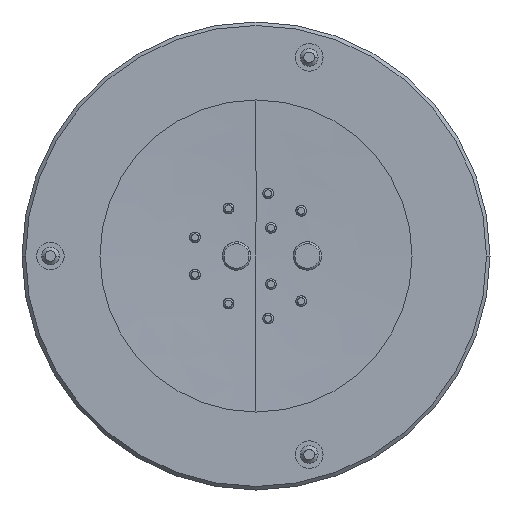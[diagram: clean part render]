
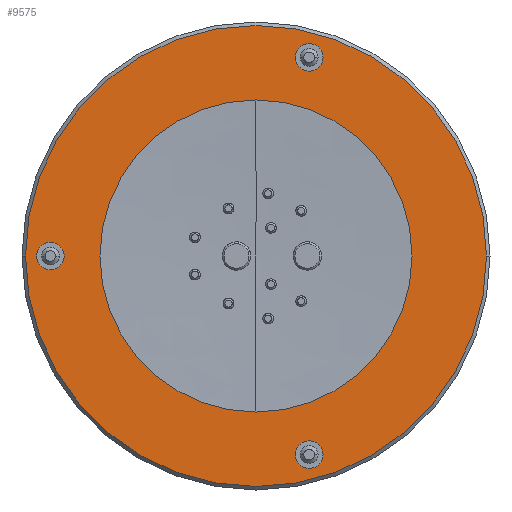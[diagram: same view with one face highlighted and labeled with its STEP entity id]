
A CAD part, left-side view. The second image highlights one B-rep face of the part: STEP entity #9575.
In plain terms, the highlighted planar face has unit normal (-1, 0, 0).
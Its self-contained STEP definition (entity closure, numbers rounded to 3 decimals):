
#383=CARTESIAN_POINT('',(-12.5,0.,0.));
#384=DIRECTION('',(1.,0.,0.));
#385=DIRECTION('',(0.,1.,0.));
#386=AXIS2_PLACEMENT_3D('',#383,#384,#385);
#388=CARTESIAN_POINT('',(-12.5,0.,0.));
#389=DIRECTION('',(1.,0.,0.));
#390=DIRECTION('',(0.,0.,1.));
#391=AXIS2_PLACEMENT_3D('',#388,#389,#390);
#393=CARTESIAN_POINT('',(-12.5,0.,0.));
#394=DIRECTION('',(1.,0.,0.));
#395=DIRECTION('',(0.,-1.,0.));
#396=AXIS2_PLACEMENT_3D('',#393,#394,#395);
#398=CARTESIAN_POINT('',(-12.5,0.,0.));
#399=DIRECTION('',(1.,0.,0.));
#400=DIRECTION('',(0.,0.,-1.));
#401=AXIS2_PLACEMENT_3D('',#398,#399,#400);
#403=CARTESIAN_POINT('',(-12.5,-1.501,5.602));
#404=DIRECTION('',(-1.,0.,0.));
#405=DIRECTION('',(0.,-1.,0.));
#406=AXIS2_PLACEMENT_3D('',#403,#404,#405);
#408=CARTESIAN_POINT('',(-12.5,-1.501,5.602));
#409=DIRECTION('',(-1.,0.,0.));
#410=DIRECTION('',(0.,1.,0.));
#411=AXIS2_PLACEMENT_3D('',#408,#409,#410);
#413=CARTESIAN_POINT('',(-12.5,-1.501,-5.602));
#414=DIRECTION('',(-1.,0.,0.));
#415=DIRECTION('',(0.,-1.,0.));
#416=AXIS2_PLACEMENT_3D('',#413,#414,#415);
#418=CARTESIAN_POINT('',(-12.5,-1.501,-5.602));
#419=DIRECTION('',(-1.,0.,0.));
#420=DIRECTION('',(0.,1.,0.));
#421=AXIS2_PLACEMENT_3D('',#418,#419,#420);
#423=CARTESIAN_POINT('',(-12.5,5.8,0.));
#424=DIRECTION('',(-1.,0.,0.));
#425=DIRECTION('',(0.,-1.,0.));
#426=AXIS2_PLACEMENT_3D('',#423,#424,#425);
#428=CARTESIAN_POINT('',(-12.5,5.8,0.));
#429=DIRECTION('',(-1.,0.,0.));
#430=DIRECTION('',(0.,1.,0.));
#431=AXIS2_PLACEMENT_3D('',#428,#429,#430);
#433=CARTESIAN_POINT('',(-12.5,0.,0.));
#434=DIRECTION('',(-1.,0.,0.));
#435=DIRECTION('',(0.,-1.,0.));
#436=AXIS2_PLACEMENT_3D('',#433,#434,#435);
#438=CARTESIAN_POINT('',(-12.5,0.,0.));
#439=DIRECTION('',(-1.,0.,0.));
#440=DIRECTION('',(0.,1.,0.));
#441=AXIS2_PLACEMENT_3D('',#438,#439,#440);
#8007=CARTESIAN_POINT('',(-12.5,-4.4,0.));
#8008=VERTEX_POINT('',#8007);
#8009=CARTESIAN_POINT('',(-12.5,4.4,0.));
#8010=VERTEX_POINT('',#8009);
#8011=CARTESIAN_POINT('',(-12.5,0.,6.5));
#8012=CARTESIAN_POINT('',(-12.5,-6.5,0.));
#8013=VERTEX_POINT('',#8011);
#8014=VERTEX_POINT('',#8012);
#8015=CARTESIAN_POINT('',(-12.5,6.5,0.));
#8016=VERTEX_POINT('',#8015);
#8017=CARTESIAN_POINT('',(-12.5,0.,-6.5));
#8018=VERTEX_POINT('',#8017);
#8019=CARTESIAN_POINT('',(-12.5,-1.891,5.602));
#8020=CARTESIAN_POINT('',(-12.5,-1.111,5.602));
#8021=VERTEX_POINT('',#8019);
#8022=VERTEX_POINT('',#8020);
#8023=CARTESIAN_POINT('',(-12.5,-1.891,-5.602));
#8024=CARTESIAN_POINT('',(-12.5,-1.111,-5.602));
#8025=VERTEX_POINT('',#8023);
#8026=VERTEX_POINT('',#8024);
#8027=CARTESIAN_POINT('',(-12.5,5.41,0.));
#8028=CARTESIAN_POINT('',(-12.5,6.19,0.));
#8029=VERTEX_POINT('',#8027);
#8030=VERTEX_POINT('',#8028);
#9538=CARTESIAN_POINT('',(-12.5,0.,0.));
#9539=DIRECTION('',(1.,0.,0.));
#9540=DIRECTION('',(0.,-1.,0.));
#9541=AXIS2_PLACEMENT_3D('',#9538,#9539,#9540);
#9542=PLANE('',#9541);
#9544=ORIENTED_EDGE('',*,*,#9543,.T.);
#9546=ORIENTED_EDGE('',*,*,#9545,.T.);
#9548=ORIENTED_EDGE('',*,*,#9547,.T.);
#9550=ORIENTED_EDGE('',*,*,#9549,.T.);
#9551=EDGE_LOOP('',(#9544,#9546,#9548,#9550));
#9552=FACE_OUTER_BOUND('',#9551,.F.);
#9554=ORIENTED_EDGE('',*,*,#9553,.T.);
#9556=ORIENTED_EDGE('',*,*,#9555,.T.);
#9557=EDGE_LOOP('',(#9554,#9556));
#9558=FACE_BOUND('',#9557,.F.);
#9560=ORIENTED_EDGE('',*,*,#9559,.T.);
#9562=ORIENTED_EDGE('',*,*,#9561,.T.);
#9563=EDGE_LOOP('',(#9560,#9562));
#9564=FACE_BOUND('',#9563,.F.);
#9566=ORIENTED_EDGE('',*,*,#9565,.T.);
#9568=ORIENTED_EDGE('',*,*,#9567,.T.);
#9569=EDGE_LOOP('',(#9566,#9568));
#9570=FACE_BOUND('',#9569,.F.);
#9571=ORIENTED_EDGE('',*,*,#9525,.T.);
#9572=ORIENTED_EDGE('',*,*,#9502,.T.);
#9573=EDGE_LOOP('',(#9571,#9572));
#9574=FACE_BOUND('',#9573,.F.);
#387=CIRCLE('',#386,6.5);
#392=CIRCLE('',#391,6.5);
#397=CIRCLE('',#396,6.5);
#402=CIRCLE('',#401,6.5);
#407=CIRCLE('',#406,0.39);
#412=CIRCLE('',#411,0.39);
#417=CIRCLE('',#416,0.39);
#422=CIRCLE('',#421,0.39);
#427=CIRCLE('',#426,0.39);
#432=CIRCLE('',#431,0.39);
#437=CIRCLE('',#436,4.4);
#442=CIRCLE('',#441,4.4);
#9502=EDGE_CURVE('',#8010,#8008,#442,.T.);
#9525=EDGE_CURVE('',#8008,#8010,#437,.T.);
#9543=EDGE_CURVE('',#8016,#8013,#387,.T.);
#9545=EDGE_CURVE('',#8013,#8014,#392,.T.);
#9547=EDGE_CURVE('',#8014,#8018,#397,.T.);
#9549=EDGE_CURVE('',#8018,#8016,#402,.T.);
#9553=EDGE_CURVE('',#8021,#8022,#407,.T.);
#9555=EDGE_CURVE('',#8022,#8021,#412,.T.);
#9559=EDGE_CURVE('',#8025,#8026,#417,.T.);
#9561=EDGE_CURVE('',#8026,#8025,#422,.T.);
#9565=EDGE_CURVE('',#8029,#8030,#427,.T.);
#9567=EDGE_CURVE('',#8030,#8029,#432,.T.);
#9575=ADVANCED_FACE('',(#9552,#9558,#9564,#9570,#9574),#9542,.F.);
